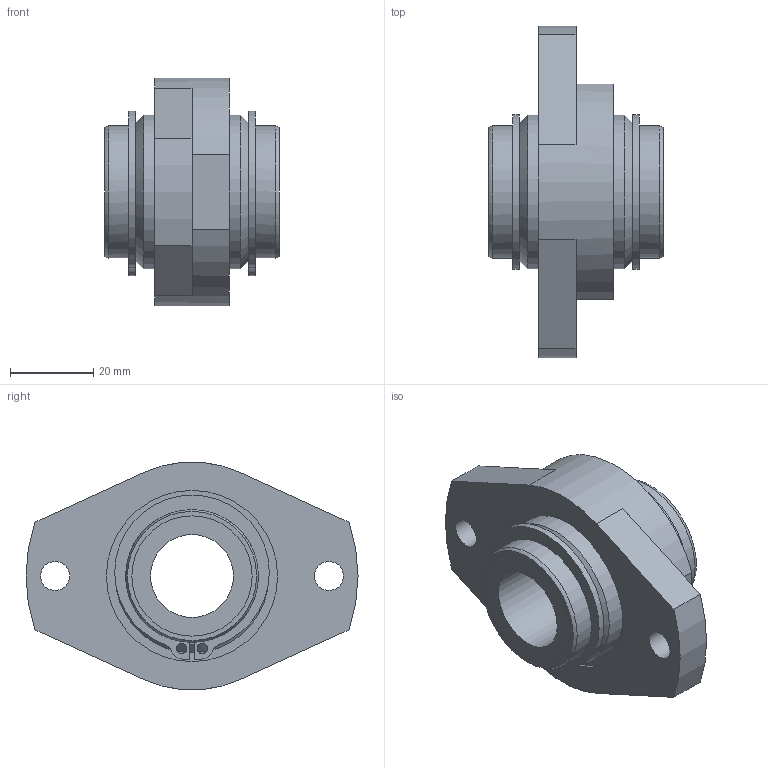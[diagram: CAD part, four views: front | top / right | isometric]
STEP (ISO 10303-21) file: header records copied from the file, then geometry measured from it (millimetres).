
FILE_DESCRIPTION((''),'2;1');
FILE_NAME('D:\製品 (図面)\カタログ用3D\シャフトブロック\PF\PF20.stp','2010-01-28T16:29:18',('Tsuchiya'),(''),'Autodesk Inventor 10','Autodesk Inventor 10','');
FILE_SCHEMA(('AUTOMOTIVE_DESIGN { 1 0 10303 214 1 1 1 1 }'));
Length unit declared in the file: millimetre
Products named in the file (1): PF20
Bounding box: 42 x 80 x 54.81 mm (x, y, z)
Volume: 57519.9 mm3; surface area: 17885 mm2
Topology: 1 solids, 2 shells, 75 faces, 187 edges, 119 vertices
Faces by surface type: plane 30, cylinder 22, bspline 15, sphere 3, cone 3, torus 2
Full cylindrical faces by diameter (mm): 2.5 x2, 20 x1, 29 x2, 32 x2, 37 x2
Entity records: 2288 total; most frequent: CARTESIAN_POINT 545, DIRECTION 380, ORIENTED_EDGE 318, AXIS2_PLACEMENT_3D 160, EDGE_CURVE 159, EDGE_LOOP 114, VERTEX_POINT 111, CIRCLE 99
